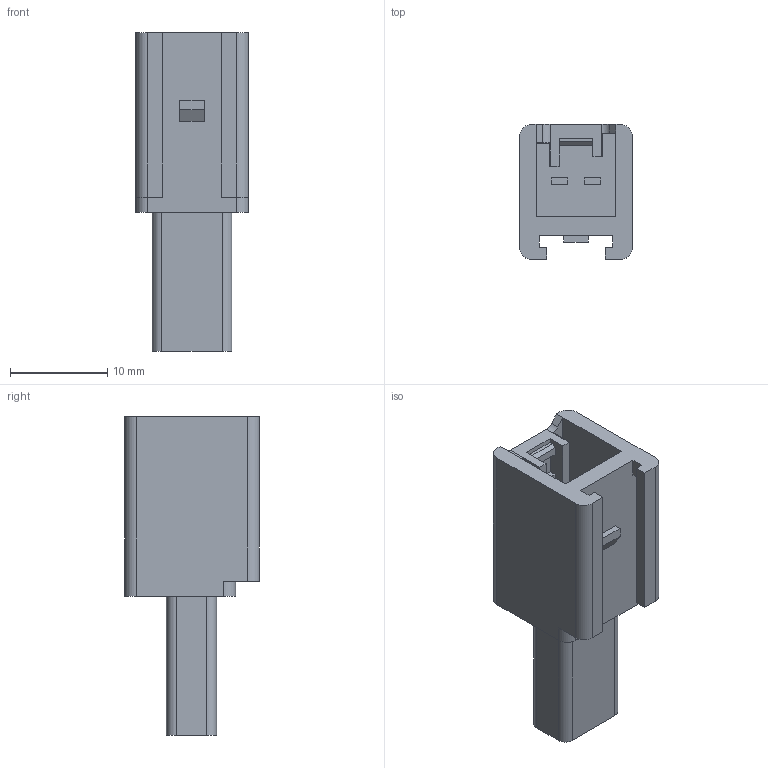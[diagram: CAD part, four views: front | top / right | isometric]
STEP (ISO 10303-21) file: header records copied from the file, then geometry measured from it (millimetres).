
FILE_DESCRIPTION (( 'STEP AP214' ), '1' );
FILE_NAME ('7186-8845#09#YC3S-MODEL.STEP', '2024-10-03T06:23:54', ( '' ), ( '' ), 'SwSTEP 2.0', 'SolidWorks 2022', '' );
FILE_SCHEMA (( 'AUTOMOTIVE_DESIGN' ));
Length unit declared in the file: millimetre
Products named in the file (1): 7186-8845#09#YC3S-MODEL
Bounding box: 11.55 x 13.85 x 32.75 mm (x, y, z)
Volume: 2239.5 mm3; surface area: 2342 mm2
Topology: 1 solids, 1 shells, 85 faces, 229 edges, 152 vertices
Faces by surface type: plane 73, cylinder 12
Entity records: 2667 total; most frequent: CARTESIAN_POINT 467, ORIENTED_EDGE 458, DIRECTION 427, EDGE_CURVE 229, VECTOR 203, LINE 203, VERTEX_POINT 152, AXIS2_PLACEMENT_3D 112
